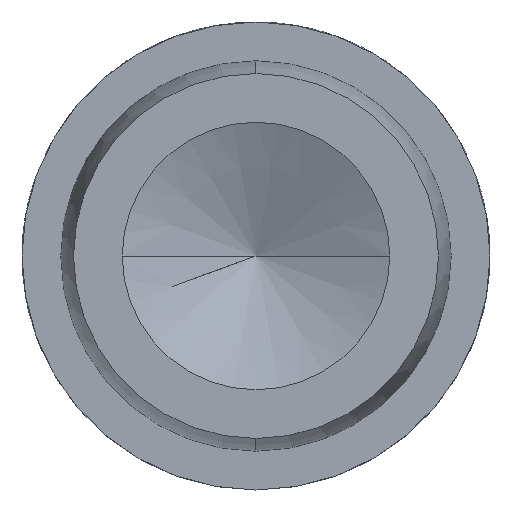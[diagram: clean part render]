
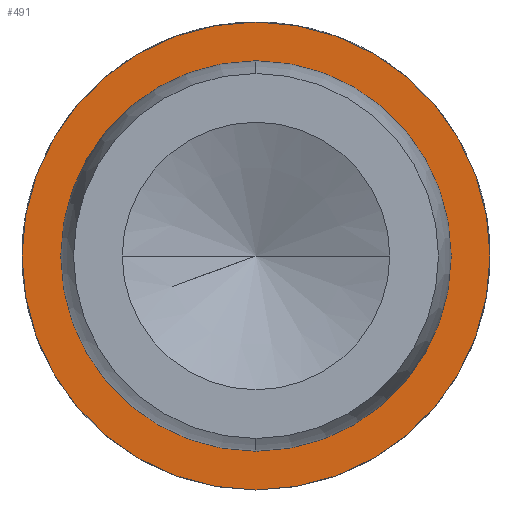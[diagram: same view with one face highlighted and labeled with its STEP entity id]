
A CAD part, left-side view. The second image highlights one B-rep face of the part: STEP entity #491.
In plain terms, the highlighted planar face has unit normal (-1, 0, 0).
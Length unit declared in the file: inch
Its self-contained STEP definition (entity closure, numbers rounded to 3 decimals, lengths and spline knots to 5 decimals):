
#3 = EDGE_CURVE ( 'NONE', #1022, #962, #825, .T. ) ;
#81 = AXIS2_PLACEMENT_3D ( 'NONE', #882, #877, #874 ) ;
#126 = DIRECTION ( 'NONE',  ( 0., 0., 1. ) ) ;
#130 = CIRCLE ( 'NONE', #341, 0.365 ) ;
#131 = DIRECTION ( 'NONE',  ( -1., 0., 0. ) ) ;
#143 = CARTESIAN_POINT ( 'NONE',  ( -0.75, 0., 0. ) ) ;
#191 = CARTESIAN_POINT ( 'NONE',  ( -0.75, 0., 0.365 ) ) ;
#216 = EDGE_CURVE ( 'NONE', #762, #771, #308, .T. ) ;
#217 = CARTESIAN_POINT ( 'NONE',  ( -0.75, 0., -0.365 ) ) ;
#273 = EDGE_CURVE ( 'NONE', #962, #1022, #130, .T. ) ;
#291 = EDGE_CURVE ( 'NONE', #771, #762, #1184, .T. ) ;
#308 = CIRCLE ( 'NONE', #369, 0.4375 ) ;
#320 = CARTESIAN_POINT ( 'NONE',  ( -0.75, 0., 0. ) ) ;
#322 = AXIS2_PLACEMENT_3D ( 'NONE', #320, #1202, #1200 ) ;
#341 = AXIS2_PLACEMENT_3D ( 'NONE', #425, #423, #419 ) ;
#369 = AXIS2_PLACEMENT_3D ( 'NONE', #552, #550, #547 ) ;
#419 = DIRECTION ( 'NONE',  ( 0., 0., 1. ) ) ;
#423 = DIRECTION ( 'NONE',  ( -1., 0., 0. ) ) ;
#425 = CARTESIAN_POINT ( 'NONE',  ( -0.75, 0., 0. ) ) ;
#464 = CARTESIAN_POINT ( 'NONE',  ( -0.75, 0., 0.4375 ) ) ;
#491 = ADVANCED_FACE ( 'NONE', ( #609, #561 ), #902, .T. ) ;
#517 = CARTESIAN_POINT ( 'NONE',  ( -0.75, 0., -0.4375 ) ) ;
#547 = DIRECTION ( 'NONE',  ( 0., 0., 1. ) ) ;
#550 = DIRECTION ( 'NONE',  ( -1., 0., 0. ) ) ;
#552 = CARTESIAN_POINT ( 'NONE',  ( -0.75, 0., 0. ) ) ;
#561 = FACE_OUTER_BOUND ( 'NONE', #1029, .T. ) ;
#605 = AXIS2_PLACEMENT_3D ( 'NONE', #143, #131, #126 ) ;
#609 = FACE_BOUND ( 'NONE', #688, .T. ) ;
#688 = EDGE_LOOP ( 'NONE', ( #899, #900 ) ) ;
#762 = VERTEX_POINT ( 'NONE', #517 ) ;
#771 = VERTEX_POINT ( 'NONE', #464 ) ;
#825 = CIRCLE ( 'NONE', #605, 0.365 ) ;
#874 = DIRECTION ( 'NONE',  ( 0., 0., 1. ) ) ;
#877 = DIRECTION ( 'NONE',  ( -1., 0., 0. ) ) ;
#882 = CARTESIAN_POINT ( 'NONE',  ( -0.75, 0., -0.365 ) ) ;
#899 = ORIENTED_EDGE ( 'NONE', *, *, #3, .F. ) ;
#900 = ORIENTED_EDGE ( 'NONE', *, *, #273, .F. ) ;
#902 = PLANE ( 'NONE',  #81 ) ;
#918 = ORIENTED_EDGE ( 'NONE', *, *, #216, .T. ) ;
#920 = ORIENTED_EDGE ( 'NONE', *, *, #291, .T. ) ;
#962 = VERTEX_POINT ( 'NONE', #217 ) ;
#1022 = VERTEX_POINT ( 'NONE', #191 ) ;
#1029 = EDGE_LOOP ( 'NONE', ( #920, #918 ) ) ;
#1184 = CIRCLE ( 'NONE', #322, 0.4375 ) ;
#1200 = DIRECTION ( 'NONE',  ( 0., 0., 1. ) ) ;
#1202 = DIRECTION ( 'NONE',  ( -1., 0., 0. ) ) ;
